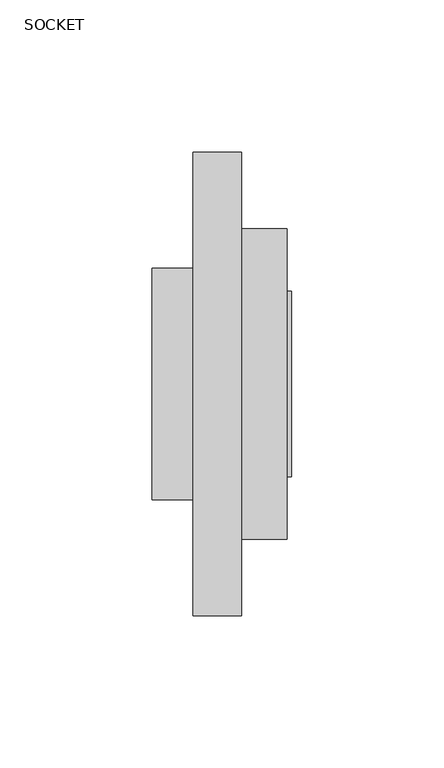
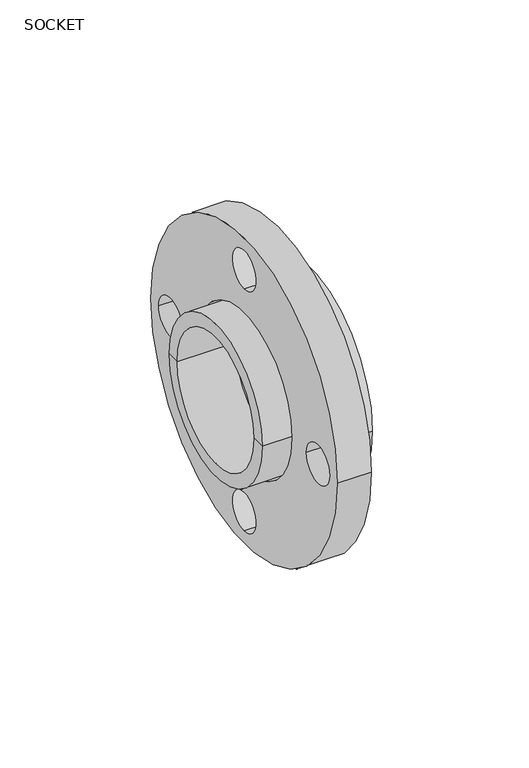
"""IFC4 building model written with IfcOpenShell, lengths in millimetres: valve geometry, Aquatherm - Flange Adapter Socket : SOCKET."""

import ifcopenshell
import ifcopenshell.guid

model = None  # the IFC model being written
_history = None  # IfcOwnerHistory: only IFC2X3 demands one
_inside = {}  # id of a spatial element -> (the spatial element, [elements in it])
_under = {}  # id of a project, library or spatial element -> (it, [spatial elements below it])
_declared = {}  # id of a project -> (the project, [libraries it declares])
_typed = {}  # id of a type object -> (the type object, [elements of that type])
_made_of = {}  # id of a material, layer set ... -> (it, [elements and type objects made of it])


def new_model(schema):
    """Start an empty IFC model of exactly this schema.

    Asked for "IFC4X3", IfcOpenShell would pick the latest addendum, in which some entities
    have other attributes; the version numbers below select the first issue.
    IFC2X3 requires an IfcOwnerHistory on every rooted entity: one is made here for all.
    """
    global model, _history
    if schema == "IFC4X3":
        model = ifcopenshell.file(schema_version=(4, 3, 0, 0))
    else:
        model = ifcopenshell.file(schema=schema)
    _inside.clear()
    _under.clear()
    _declared.clear()
    _typed.clear()
    _made_of.clear()
    _history = None
    if model.schema == "IFC2X3":
        org = make("IfcOrganization", Name="unknown")
        user = make(
            "IfcPersonAndOrganization",
            ThePerson=make("IfcPerson", FamilyName="unknown"),
            TheOrganization=org,
        )
        app = make(
            "IfcApplication",
            ApplicationDeveloper=org,
            Version="unknown",
            ApplicationFullName="unknown",
            ApplicationIdentifier="unknown",
        )
        _history = make(
            "IfcOwnerHistory",
            OwningUser=user,
            OwningApplication=app,
            ChangeAction="ADDED",
            CreationDate=0,
        )
    return model


def make(cls, **values):
    """One entity of the class cls with the attributes given. An attribute that is None is left unset."""
    return model.create_entity(
        cls, **{name: value for name, value in values.items() if value is not None}
    )


def rooted(cls, **values):
    """An entity with a GlobalId (a new one), such as an element, a storey or a relation."""
    return make(cls, GlobalId=ifcopenshell.guid.new(), OwnerHistory=_history, **values)


def si_unit(unit_type, name, prefix=None):
    """IfcSIUnit, for example si_unit("LENGTHUNIT", "METRE", prefix="MILLI")."""
    return make("IfcSIUnit", UnitType=unit_type, Prefix=prefix, Name=name)


def assignment(units):
    """IfcUnitAssignment: the units of a project."""
    return None if units is None else make("IfcUnitAssignment", Units=units)


def point(xyz):
    """IfcCartesianPoint."""
    return None if xyz is None else make("IfcCartesianPoint", Coordinates=xyz)


def direction(xyz):
    """IfcDirection."""
    return None if xyz is None else make("IfcDirection", DirectionRatios=xyz)


def frame(location, z_axis=None, x_axis=None):
    """IfcAxis2Placement3D, a coordinate frame: its origin and axes. An axis left out is left unset."""
    return make(
        "IfcAxis2Placement3D",
        Location=point(location),
        Axis=direction(z_axis),
        RefDirection=direction(x_axis),
    )


def frame_2d(location, x_axis=None):
    """IfcAxis2Placement2D, a coordinate frame in the plane: its origin and x axis."""
    return make(
        "IfcAxis2Placement2D", Location=point(location), RefDirection=direction(x_axis)
    )


def origin():
    """The frame at (0, 0, 0) with its axes left unset."""
    return frame((0.0, 0.0, 0.0))


def origin_2d():
    """The frame at (0, 0) in the plane with its x axis left unset."""
    return frame_2d((0.0, 0.0))


def place(relative_to, where):
    """IfcLocalPlacement: puts the frame where relative to a parent placement (None: the world)."""
    return make(
        "IfcLocalPlacement", PlacementRelTo=relative_to, RelativePlacement=where
    )


def context(
    kind, dimensions, precision=None, world=None, true_north=None, identifier=None
):
    """IfcGeometricRepresentationContext, for example the 3D "Model" context."""
    return make(
        "IfcGeometricRepresentationContext",
        ContextIdentifier=identifier,
        ContextType=kind,
        CoordinateSpaceDimension=dimensions,
        Precision=precision,
        WorldCoordinateSystem=world,
        TrueNorth=true_north,
    )


def project(units=None, contexts=None):
    """IfcProject with its units and contexts."""
    return rooted(
        "IfcProject",
        Name="project",
        RepresentationContexts=contexts,
        UnitsInContext=assignment(units),
    )


def spatial(cls, under=None, at=None, **own):
    """A site, building, storey or space (cls), placed at a placement, below another one or the project."""
    s = rooted(cls, ObjectPlacement=at, **own)
    if under is not None:
        _under.setdefault(under.id(), (under, []))[1].append(s)
    return s


def polyline(points):
    """IfcPolyline through the points."""
    return make("IfcPolyline", Points=[point(p) for p in points])


def circle_curve(where, radius):
    """IfcCircle in the frame where."""
    return make("IfcCircle", Position=where, Radius=radius)


def trimmed(basis, trim1, trim2, sense, master):
    """IfcTrimmedCurve: the piece of a basis curve between two trims."""
    return make(
        "IfcTrimmedCurve",
        BasisCurve=basis,
        Trim1=trim1,
        Trim2=trim2,
        SenseAgreement=sense,
        MasterRepresentation=master,
    )


def segment(curve, same_sense, transition):
    """IfcCompositeCurveSegment."""
    return make(
        "IfcCompositeCurveSegment",
        Transition=transition,
        SameSense=same_sense,
        ParentCurve=curve,
    )


def composite_curve(segments, self_intersect=None):
    """IfcCompositeCurve: segments joined end to end."""
    return make("IfcCompositeCurve", Segments=segments, SelfIntersect=self_intersect)


def outline(outer, holes=None, kind="AREA"):
    """IfcArbitraryClosedProfileDef: a profile drawn as a closed curve; with holes, ...WithVoids."""
    if holes is None:
        return make("IfcArbitraryClosedProfileDef", ProfileType=kind, OuterCurve=outer)
    return make(
        "IfcArbitraryProfileDefWithVoids",
        ProfileType=kind,
        OuterCurve=outer,
        InnerCurves=holes,
    )


def extrude(swept, where, along, depth):
    """IfcExtrudedAreaSolid: the profile swept, set in the frame where, extruded along a direction by depth."""
    return make(
        "IfcExtrudedAreaSolid",
        SweptArea=swept,
        Position=where,
        ExtrudedDirection=direction(along),
        Depth=depth,
    )


def shape(context_of_items, identifier, shape_type, items):
    """IfcShapeRepresentation: the items that make up one representation, for example the "Body"."""
    return make(
        "IfcShapeRepresentation",
        ContextOfItems=context_of_items,
        RepresentationIdentifier=identifier,
        RepresentationType=shape_type,
        Items=items,
    )


def source(mapping_origin, context_of_items, identifier, shape_type, items):
    """IfcRepresentationMap: a shape defined once, which mapped items show again and again."""
    return make(
        "IfcRepresentationMap",
        MappingOrigin=mapping_origin,
        MappedRepresentation=shape(context_of_items, identifier, shape_type, items),
    )


def transform(
    local_origin,
    x_axis=None,
    y_axis=None,
    z_axis=None,
    scale=None,
    scale2=None,
    scale3=None,
    uniform=True,
):
    """IfcCartesianTransformationOperator3D, or its non-uniform kind. x_axis, y_axis, z_axis: its Axis1, 2, 3."""
    if uniform:
        return make(
            "IfcCartesianTransformationOperator3D",
            Axis1=direction(x_axis),
            Axis2=direction(y_axis),
            LocalOrigin=point(local_origin),
            Scale=scale,
            Axis3=direction(z_axis),
        )
    return make(
        "IfcCartesianTransformationOperator3DnonUniform",
        Axis1=direction(x_axis),
        Axis2=direction(y_axis),
        LocalOrigin=point(local_origin),
        Scale=scale,
        Axis3=direction(z_axis),
        Scale2=scale2,
        Scale3=scale3,
    )


def mapped(mapping_source, mapping_target):
    """IfcMappedItem: shows the shape of a source again, moved by a transform."""
    return make(
        "IfcMappedItem", MappingSource=mapping_source, MappingTarget=mapping_target
    )


def made_of(thing, what):
    """Note that an element or type object is made of a material, layer set ...; save() writes the relation."""
    if what is not None:
        _made_of.setdefault(what.id(), (what, []))[1].append(thing)
    return thing


def element(
    cls,
    number,
    at=None,
    inside=None,
    cuts=None,
    type_object=None,
    material=None,
    context=None,
    identifier="Body",
    shape_type=None,
    held_by="IfcProductDefinitionShape",
    body=None,
    shapes=None,
    **own,
):
    """One element of the class cls, such as IfcWall. Its Tag is "e" and its number.

    at: its placement. inside: the storey or other place that contains it. cuts: it is an
    opening in that element (IfcRelVoidsElement). A single representation is given by context,
    identifier, shape_type and body (its items); several are given by shapes. held_by: the class
    of the entity that holds the representations. save() writes the other relations.
    """
    e = rooted(cls, Tag="e%d" % number, ObjectPlacement=at, **own)
    if body is not None:
        shapes = [shape(context, identifier, shape_type, body)]
    if shapes is not None:
        e.Representation = make(held_by, Representations=shapes)
    if inside is not None:
        _inside.setdefault(inside.id(), (inside, []))[1].append(e)
    if cuts is not None:
        rooted(
            "IfcRelVoidsElement", RelatingBuildingElement=cuts, RelatedOpeningElement=e
        )
    if type_object is not None:
        _typed.setdefault(type_object.id(), (type_object, []))[1].append(e)
    return made_of(e, material)


def aggregate(whole, parts):
    """IfcRelAggregates: a whole, such as a stair, and the parts it consists of."""
    return rooted("IfcRelAggregates", RelatingObject=whole, RelatedObjects=parts)


def save(model, path):
    """Write the relations noted so far, then the file.

    IfcRelAggregates (storeys below a building ...), IfcRelContainedInSpatialStructure (elements
    in a storey), IfcRelDefinesByType, IfcRelAssociatesMaterial and IfcRelDeclares: one each for
    every whole, place, type object, material and project.
    """
    for whole, parts in _under.values():
        aggregate(whole, parts)
    for where, things in _inside.values():
        rooted(
            "IfcRelContainedInSpatialStructure",
            RelatedElements=things,
            RelatingStructure=where,
        )
    for kind, things in _typed.values():
        rooted("IfcRelDefinesByType", RelatedObjects=things, RelatingType=kind)
    for what, things in _made_of.values():
        rooted("IfcRelAssociatesMaterial", RelatedObjects=things, RelatingMaterial=what)
    for by, libraries in _declared.values():
        rooted("IfcRelDeclares", RelatingContext=by, RelatedDefinitions=libraries)
    model.write(path)


def plane_surface(at):
    """IfcPlane: the flat surface through the origin of the frame at, square to its z axis."""
    return make("IfcPlane", Position=at)


def cylinder_surface(at, radius):
    """IfcCylindricalSurface: all points at the distance radius from the z axis of the frame at."""
    return make("IfcCylindricalSurface", Position=at, Radius=radius)


def revolved_surface(curve, axis_point, axis_direction):
    """IfcSurfaceOfRevolution: the curve turned about the line through axis_point along axis_direction."""
    return make(
        "IfcSurfaceOfRevolution",
        SweptCurve=make("IfcArbitraryOpenProfileDef", ProfileType="CURVE", Curve=curve),
        AxisPosition=make("IfcAxis1Placement", Location=point(axis_point), Axis=direction(axis_direction)),
    )


def advanced_brep(points, edges, surfaces, faces):
    """IfcAdvancedBrep: a solid bounded by faces that lie on surfaces and meet in shared edges.

    An edge is (start, end): straight between two places in points (the first is 0);
    or (start, end, curve); or (start, end, curve, False) where it runs against its curve.
    A face is (place in surfaces, loops), or (place, loops, False) where it looks against
    its surface's normal. A loop lists edges by number (the first is 1), with a minus sign
    where the edge is run from its end to its start. The first loop is the outer one.
    """
    corners = [point(p) for p in points]
    vertices = [make("IfcVertexPoint", VertexGeometry=c) for c in corners]
    made = []
    for start, end, *more in edges:
        made.append(
            make(
                "IfcEdgeCurve",
                EdgeStart=vertices[start],
                EdgeEnd=vertices[end],
                EdgeGeometry=more[0] if more else make("IfcPolyline", Points=[corners[start], corners[end]]),
                SameSense=more[1] if len(more) > 1 else True,
            )
        )
    hull = []
    for where, loops, *sense in faces:
        bounds = []
        for j, loop in enumerate(loops):
            ring = [make("IfcOrientedEdge", EdgeElement=made[abs(k) - 1], Orientation=k > 0) for k in loop]
            bounds.append(
                make(
                    "IfcFaceOuterBound" if j == 0 else "IfcFaceBound",
                    Bound=make("IfcEdgeLoop", EdgeList=ring),
                    Orientation=True,
                )
            )
        hull.append(make("IfcAdvancedFace", Bounds=bounds, FaceSurface=surfaces[where], SameSense=sense[0] if sense else True))
    return make("IfcAdvancedBrep", Outer=make("IfcClosedShell", CfsFaces=hull))


def socket_53646c24(model_context):
    return source(origin(), model_context, "Body", "SolidModel", [
        extrude(outline(composite_curve([segment(trimmed(circle_curve(origin_2d(), 76.2), [point((-76.2, 0.0))], [point((76.2, 0.0))], False, "CARTESIAN"), True, "CONTINUOUS"), segment(trimmed(circle_curve(origin_2d(), 76.2), [point((76.2, 0.0))], [point((-76.2, 0.0))], False, "CARTESIAN"), True, "CONTINUOUS")], self_intersect=False), holes=[composite_curve([segment(trimmed(circle_curve(origin_2d(), 38.862), [point((-38.862, 0.0))], [point((38.862, 0.0))], True, "CARTESIAN"), True, "CONTINUOUS"), segment(trimmed(circle_curve(origin_2d(), 38.862), [point((38.862, 0.0))], [point((-38.862, 0.0))], True, "CARTESIAN"), True, "CONTINUOUS")], self_intersect=False), composite_curve([segment(trimmed(circle_curve(frame_2d((60.325, 0.0)), 9.525), [point((50.8, 0.0))], [point((69.85, 0.0))], True, "CARTESIAN"), True, "CONTINUOUS"), segment(trimmed(circle_curve(frame_2d((60.325, 0.0)), 9.525), [point((69.85, 0.0))], [point((50.8, 0.0))], True, "CARTESIAN"), True, "CONTINUOUS")], self_intersect=False), composite_curve([segment(trimmed(circle_curve(frame_2d((0.0, -60.325)), 9.525), [point((0.0, -50.8))], [point((0.0, -69.85))], True, "CARTESIAN"), True, "CONTINUOUS"), segment(trimmed(circle_curve(frame_2d((0.0, -60.325)), 9.525), [point((0.0, -69.85))], [point((0.0, -50.8))], True, "CARTESIAN"), True, "CONTINUOUS")], self_intersect=False), composite_curve([segment(trimmed(circle_curve(frame_2d((0.0, 60.325)), 9.525), [point((0.0, 50.8))], [point((0.0, 69.85))], True, "CARTESIAN"), True, "CONTINUOUS"), segment(trimmed(circle_curve(frame_2d((0.0, 60.325)), 9.525), [point((0.0, 69.85))], [point((0.0, 50.8))], True, "CARTESIAN"), True, "CONTINUOUS")], self_intersect=False), composite_curve([segment(trimmed(circle_curve(frame_2d((-60.325, 0.0)), 9.525), [point((-50.8, 0.0))], [point((-69.85, 0.0))], True, "CARTESIAN"), True, "CONTINUOUS"), segment(trimmed(circle_curve(frame_2d((-60.325, 0.0)), 9.525), [point((-69.85, 0.0))], [point((-50.8, 0.0))], True, "CARTESIAN"), True, "CONTINUOUS")], self_intersect=False)]), frame((-16.002, 0.0, 0.0), z_axis=(1.0, 0.0, 0.0), x_axis=(0.0, 1.0, 0.0)), (0.0, 0.0, 1.0), 16.002),
        advanced_brep(
        [(16.51, 25.4, 0.0), (16.51, -25.4, 0.0), (16.51, -30.48, 0.0), (16.51, 30.48, 0.0), (-2.032, 25.4, 0.0), (-2.032, -25.4, 0.0), (-2.032, 31.496, 0.0), (-2.032, -31.496, 0.0), (-29.464, 31.496, 0.0), (-29.464, -31.496, 0.0), (-29.464, 37.973, 0.0), (-29.464, -37.973, 0.0), (0.0, 37.973, 0.0), (0.0, -37.973, 0.0), (0.0, 51.054, 0.0), (0.0, -51.054, 0.0), (14.986, 51.054, 0.0), (14.986, -51.054, 0.0), (14.986, 30.48, 0.0), (14.986, -30.48, 0.0)],
        [
            (0, 1, circle_curve(frame((16.51, 0.0, 0.0), z_axis=(-1.0, 0.0, 0.0), x_axis=(0.0, -1.0, 0.0)), 25.4)),
            (1, 2),
            (2, 3, circle_curve(frame((16.51, 0.0, 0.0), z_axis=(1.0, 0.0, 0.0), x_axis=(0.0, -1.0, 0.0)), 30.48)),
            (3, 0),
            (1, 0, circle_curve(frame((16.51, 0.0, 0.0), z_axis=(-1.0, 0.0, 0.0), x_axis=(0.0, -1.0, 0.0)), 25.4)),
            (3, 2, circle_curve(frame((16.51, 0.0, 0.0), z_axis=(1.0, 0.0, 0.0), x_axis=(0.0, -1.0, 0.0)), 30.48)),
            (4, 5, circle_curve(frame((-2.032, 0.0, 0.0), z_axis=(-1.0, 0.0, 0.0), x_axis=(0.0, -1.0, 0.0)), 25.4)),
            (5, 1),
            (0, 4),
            (5, 4, circle_curve(frame((-2.032, 0.0, 0.0), z_axis=(-1.0, 0.0, 0.0), x_axis=(0.0, -1.0, 0.0)), 25.4)),
            (6, 7, circle_curve(frame((-2.032, 0.0, 0.0), z_axis=(-1.0, 0.0, 0.0), x_axis=(0.0, -1.0, 0.0)), 31.496)),
            (7, 5),
            (4, 6),
            (7, 6, circle_curve(frame((-2.032, 0.0, 0.0), z_axis=(-1.0, 0.0, 0.0), x_axis=(0.0, -1.0, 0.0)), 31.496)),
            (8, 9, circle_curve(frame((-29.464, 0.0, 0.0), z_axis=(-1.0, 0.0, 0.0), x_axis=(0.0, -1.0, 0.0)), 31.496)),
            (9, 7),
            (6, 8),
            (9, 8, circle_curve(frame((-29.464, 0.0, 0.0), z_axis=(-1.0, 0.0, 0.0), x_axis=(0.0, -1.0, 0.0)), 31.496)),
            (10, 11, circle_curve(frame((-29.464, 0.0, 0.0), z_axis=(-1.0, 0.0, 0.0), x_axis=(0.0, -1.0, 0.0)), 37.973)),
            (11, 9),
            (8, 10),
            (11, 10, circle_curve(frame((-29.464, 0.0, 0.0), z_axis=(-1.0, 0.0, 0.0), x_axis=(0.0, -1.0, 0.0)), 37.973)),
            (12, 13, circle_curve(frame((0.0, 0.0, 0.0), z_axis=(-1.0, 0.0, 0.0), x_axis=(0.0, -1.0, 0.0)), 37.973)),
            (13, 11),
            (10, 12),
            (13, 12, circle_curve(frame((0.0, 0.0, 0.0), z_axis=(-1.0, 0.0, 0.0), x_axis=(0.0, -1.0, 0.0)), 37.973)),
            (14, 15, circle_curve(frame((0.0, 0.0, 0.0), z_axis=(-1.0, 0.0, 0.0), x_axis=(0.0, -1.0, 0.0)), 51.054)),
            (15, 13),
            (12, 14),
            (15, 14, circle_curve(frame((0.0, 0.0, 0.0), z_axis=(-1.0, 0.0, 0.0), x_axis=(0.0, -1.0, 0.0)), 51.054)),
            (16, 17, circle_curve(frame((14.986, 0.0, 0.0), z_axis=(-1.0, 0.0, 0.0), x_axis=(0.0, -1.0, 0.0)), 51.054)),
            (17, 15),
            (14, 16),
            (17, 16, circle_curve(frame((14.986, 0.0, 0.0), z_axis=(-1.0, 0.0, 0.0), x_axis=(0.0, -1.0, 0.0)), 51.054)),
            (18, 19, circle_curve(frame((14.986, 0.0, 0.0), z_axis=(-1.0, 0.0, 0.0), x_axis=(0.0, -1.0, 0.0)), 30.48)),
            (19, 17),
            (16, 18),
            (19, 18, circle_curve(frame((14.986, 0.0, 0.0), z_axis=(-1.0, 0.0, 0.0), x_axis=(0.0, -1.0, 0.0)), 30.48)),
            (2, 19),
            (18, 3),
        ],
        [
            plane_surface(frame((16.51, 0.0, 0.0), z_axis=(1.0, 0.0, 0.0), x_axis=(0.0, -1.0, 0.0))),
            revolved_surface(polyline([(16.50999999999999, -25.4, 0.0), (-2.0319999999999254, -25.4, 0.0)]), (1445.8051939, 0.0, 0.0), (1.0, 0.0, 0.0)),
            plane_surface(frame((-2.032, 0.0, 0.0), z_axis=(-1.0, 0.0, 0.0), x_axis=(0.0, -1.0, 0.0))),
            revolved_surface(polyline([(-2.0319999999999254, -31.496, 0.0), (-29.463999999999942, -31.496, 0.0)]), (1445.8051939, 0.0, 0.0), (1.0, 0.0, 0.0)),
            plane_surface(frame((-29.464, 0.0, 0.0), z_axis=(-1.0, 0.0, 0.0), x_axis=(0.0, -1.0, 0.0))),
            cylinder_surface(frame((1445.8051939, 0.0, 0.0), z_axis=(1.0, 0.0, 0.0), x_axis=(0.0, -1.0, 0.0)), 37.973),
            plane_surface(frame((0.0, 0.0, 0.0), z_axis=(-1.0, 0.0, 0.0), x_axis=(0.0, -1.0, 0.0))),
            cylinder_surface(frame((1445.8051939, 0.0, 0.0), z_axis=(1.0, 0.0, 0.0), x_axis=(0.0, -1.0, 0.0)), 51.054),
            plane_surface(frame((14.986, 0.0, 0.0), z_axis=(1.0, 0.0, 0.0), x_axis=(0.0, -1.0, 0.0))),
            cylinder_surface(frame((1445.8051939, 0.0, 0.0), z_axis=(1.0, 0.0, 0.0), x_axis=(0.0, -1.0, 0.0)), 30.48),
        ],
        [
            (0, [[1, 2, 3, 4]]),
            (0, [[5, -4, 6, -2]]),
            (1, [[7, 8, -1, 9]]),
            (1, [[10, -9, -5, -8]]),
            (2, [[11, 12, -7, 13]]),
            (2, [[14, -13, -10, -12]]),
            (3, [[15, 16, -11, 17]]),
            (3, [[18, -17, -14, -16]]),
            (4, [[19, 20, -15, 21]]),
            (4, [[22, -21, -18, -20]]),
            (5, [[23, 24, -19, 25]]),
            (5, [[26, -25, -22, -24]]),
            (6, [[27, 28, -23, 29]]),
            (6, [[30, -29, -26, -28]]),
            (7, [[31, 32, -27, 33]]),
            (7, [[34, -33, -30, -32]]),
            (8, [[35, 36, -31, 37]]),
            (8, [[38, -37, -34, -36]]),
            (9, [[-3, 39, -35, 40]]),
            (9, [[-6, -40, -38, -39]]),
        ],
    ),
    ])


if __name__ == "__main__":
    model = new_model("IFC4")
    model_context = context("Model", 3, world=origin())
    ifc_project = project(units=[si_unit("LENGTHUNIT", "METRE", prefix="MILLI")], contexts=[model_context])
    site = spatial("IfcSite", under=ifc_project)
    building = spatial("IfcBuilding", under=site)
    placement = place(None, origin())
    ifc_socket_shape = socket_53646c24(model_context)
    element("IfcValve", 1, ObjectType="Aquatherm - Flange Adapter Socket : SOCKET", at=placement, inside=building, context=model_context, shape_type="MappedRepresentation", body=[
        mapped(ifc_socket_shape, transform((0.0, 0.0, 0.0), x_axis=(1.0, 0.0, 0.0), y_axis=(0.0, 1.0, 0.0), z_axis=(0.0, 0.0, 1.0))),
    ])
    save(model, "model.ifc")
